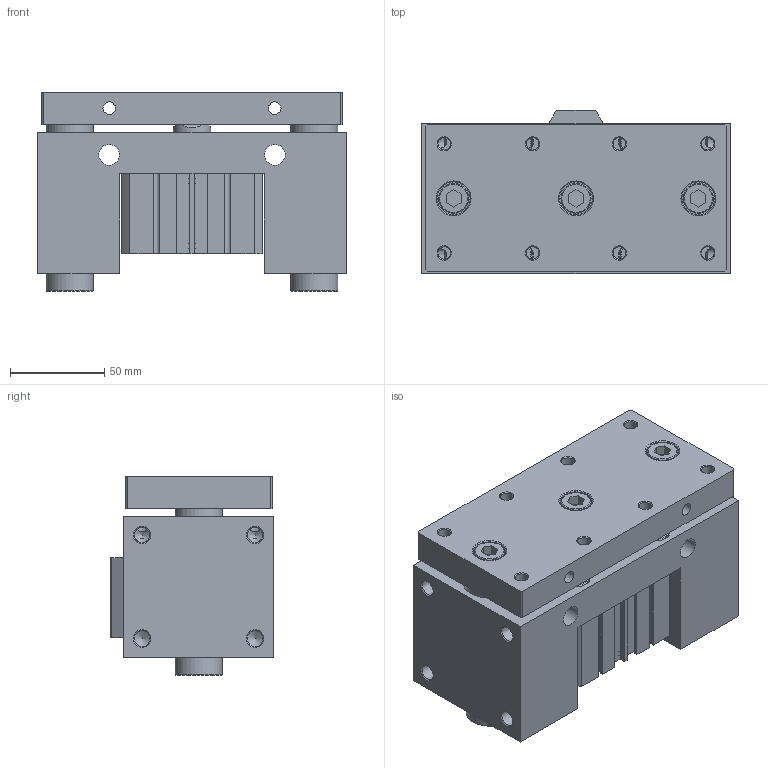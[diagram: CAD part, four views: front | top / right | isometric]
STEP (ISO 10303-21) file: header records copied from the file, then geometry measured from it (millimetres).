
FILE_DESCRIPTION((''),'2;1');
FILE_NAME('I:\3D電子目錄\氣缸\JCB\JCB\JCB63\JCB63x10.stp','2007-09-01T15:16:19',('Administrator'),(''),'Autodesk Inventor 11','Autodesk Inventor 11','');
FILE_SCHEMA(('AUTOMOTIVE_DESIGN { 1 0 10303 214 1 1 1 1 }'));
Length unit declared in the file: millimetre
Products named in the file (1): JCB63
Bounding box: 164 x 87 x 105.5 mm (x, y, z)
Volume: 1038515.6 mm3; surface area: 176745.7 mm2
Topology: 3 solids, 5 shells, 343 faces, 829 edges, 538 vertices
Faces by surface type: plane 186, cylinder 62, cone 47, bspline 40, torus 8
Full cylindrical faces by diameter (mm): 3 x2, 6.8 x4, 8.376 x4, 11 x8, 13 x4, 14 x4, 16 x3, 17.5 x3, 20 x1, 21 x1, 25 x2, 28 x2, 40 x1, 47 x1, 65 x4, 68 x2
Entity records: 10008 total; most frequent: CARTESIAN_POINT 2670, DIRECTION 1474, ORIENTED_EDGE 1320, EDGE_CURVE 660, EDGE_LOOP 554, AXIS2_PLACEMENT_3D 532, VERTEX_POINT 498, VECTOR 410
